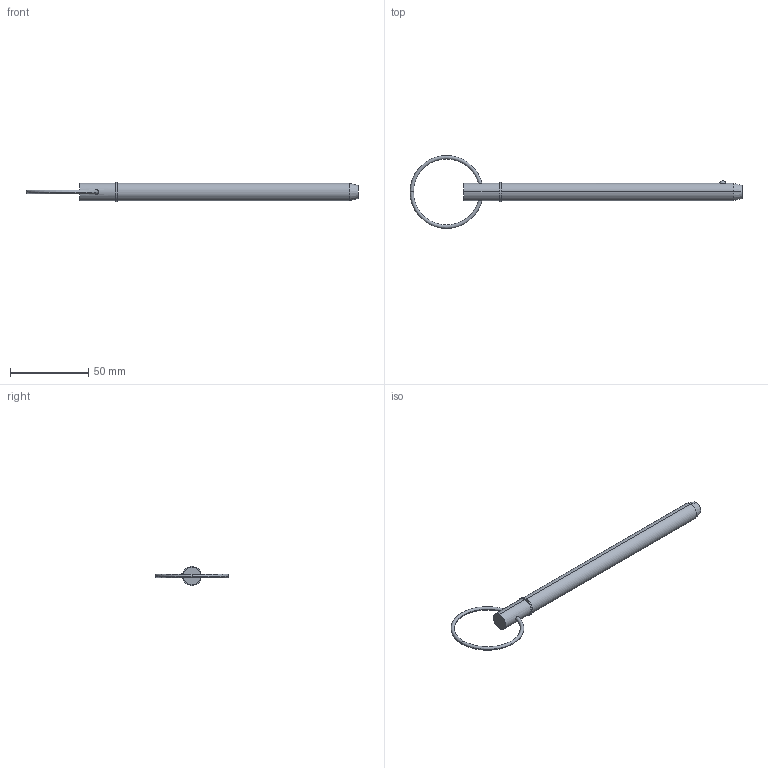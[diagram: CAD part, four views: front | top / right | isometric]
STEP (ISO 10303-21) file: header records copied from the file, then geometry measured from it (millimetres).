
FILE_DESCRIPTION (( 'STEP AP203' ), '1' );
FILE_NAME ('33014.W4355.step', '2024-11-04T08:29:13', ( '' ), ( '' ), 'SwSTEP 2.0', 'SolidWorks 2019', '' );
FILE_SCHEMA (( 'CONFIG_CONTROL_DESIGN' ));
Length unit declared in the file: millimetre
Products named in the file (3): 33014.W4355; Part1_33014.W4355; Part2_33014.W4355
Assembly tree (2 placements, depth 2):
  33014.W4355
    Part1_33014.W4355
    Part2_33014.W4355
Bounding box: 212.32 x 46.67 x 12.22 mm (x, y, z)
Volume: 17659.1 mm3; surface area: 7462.6 mm2
Topology: 2 solids, 2 shells, 22 faces, 43 edges, 26 vertices
Faces by surface type: torus 8, cylinder 6, plane 4, sphere 2, cone 2
Entity records: 1023 total; most frequent: CARTESIAN_POINT 246, DIRECTION 120, ORIENTED_EDGE 86, AXIS2_PLACEMENT_3D 56, EDGE_CURVE 43, CIRCLE 29, EDGE_LOOP 27, PERSON_AND_ORGANIZATION 26
